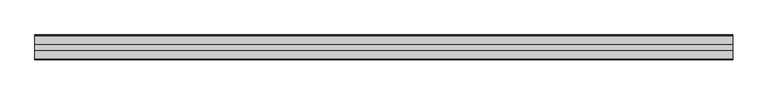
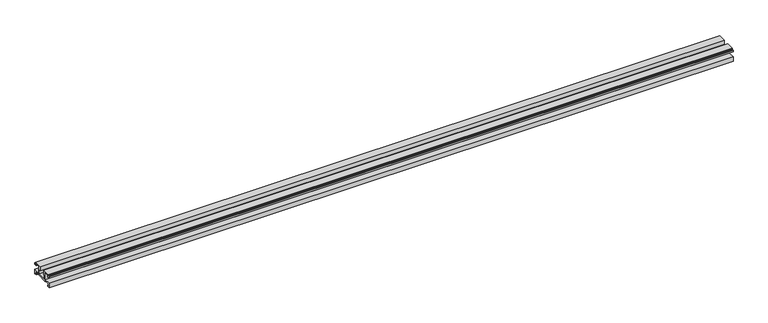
"""IFC4 building model written with IfcOpenShell, lengths in millimetres: proxy geometry, Weiku - Montante - Acoplamento vidro : Weiku - Montante - Acoplamento vidro."""

from ifc_helpers import new_model, si_unit, frame, origin, place, context, project, spatial, polyline, outline, extrude, source, transform, mapped, element, save


def generic_models_3fce3bfe(model_context):
    return source(origin(), model_context, "Body", "SweptSolid", [
        extrude(outline(polyline([(35.405, 5.1494), (12.495, 5.1494), (12.495, 6.8004), (2.159, 6.8004), (2.159, 2.6094), (4.0216, 2.6094), (4.0216, 0.0), (-0.0014508, 0.0), (-0.0014508, 8.79), (12.954, 8.79), (12.954, 23.3104), (4.3603, 23.3104), (4.3603, 19.204), (0.0, 19.204), (0.0, 22.8024), (0.9736, 22.8024), (0.9736, 20.3894), (3.175, 20.3894), (3.175, 23.9454), (2.3735496, 23.9454), (2.3735496, 25.3), (17.4836, 25.3), (17.4836, 16.283), (15.4516, 16.283), (15.4516, 8.8), (32.4484, 8.8), (32.4484, 16.283), (30.4164, 16.283), (30.4164, 25.3), (45.5264504, 25.3), (45.5264504, 23.9454), (44.725, 23.9454), (44.725, 20.3894), (46.9264, 20.3894), (46.9264, 22.8024), (47.9, 22.8024), (47.9, 19.204), (43.5397, 19.204), (43.5397, 23.3104), (34.946, 23.3104), (34.946, 8.79), (47.9014508, 8.79), (47.9014508, 0.0), (43.8784, 0.0), (43.8784, 2.6094), (45.741, 2.6094), (45.741, 6.8004), (35.405, 6.8004), (35.405, 5.1494)])), frame((-670.4333333, 0.0, 0.0), z_axis=(1.0, 0.0, 0.0), x_axis=(0.0, 1.0, 0.0)), (0.0, 0.0, 1.0), 1340.8666667),
    ])


if __name__ == "__main__":
    model = new_model("IFC4")
    model_context = context("Model", 3, world=origin())
    ifc_project = project(units=[si_unit("LENGTHUNIT", "METRE", prefix="MILLI")], contexts=[model_context])
    site = spatial("IfcSite", under=ifc_project)
    building = spatial("IfcBuilding", under=site)
    placement = place(None, origin())
    generic_models_shape = generic_models_3fce3bfe(model_context)
    element("IfcBuildingElementProxy", 1, Name="Weiku - Montante - Acoplamento vidro : Weiku - Montante - Acoplamento vidro", ObjectType="Weiku - Montante - Acoplamento vidro : Weiku - Montante - Acoplamento vidro", at=placement, inside=building, context=model_context, shape_type="MappedRepresentation", body=[
        mapped(generic_models_shape, transform((0.0, 0.0, 0.0), x_axis=(1.0, 0.0, 0.0), y_axis=(0.0, 1.0, 0.0), z_axis=(0.0, 0.0, 1.0))),
    ])
    save(model, "model.ifc")
